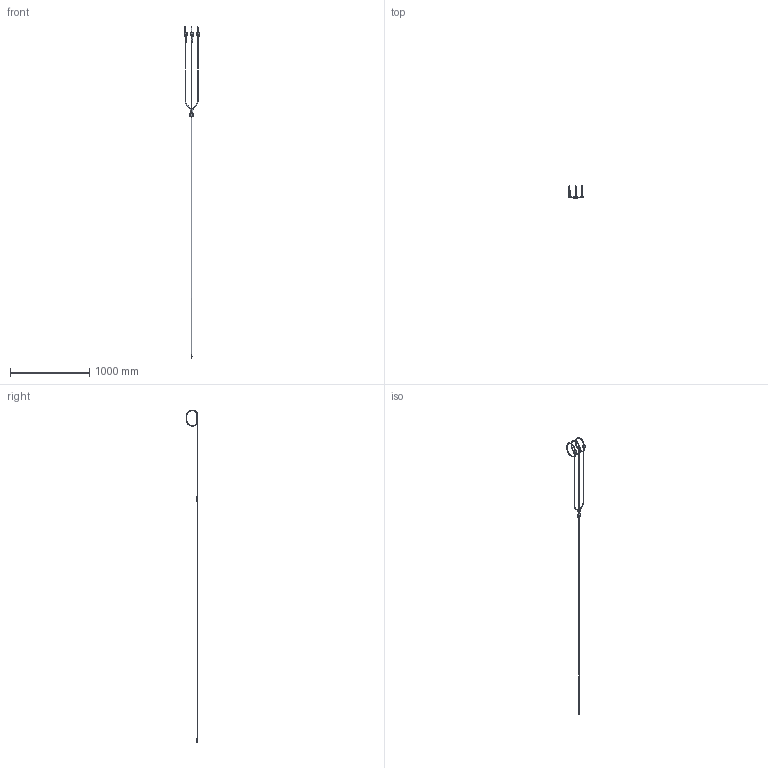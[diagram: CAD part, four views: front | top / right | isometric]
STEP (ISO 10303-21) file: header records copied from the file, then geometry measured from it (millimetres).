
FILE_DESCRIPTION(('Creo Elements/Direct Modeling STEP Export'),'2;1');
FILE_NAME('90.M7.99.100.0_20220421.stp','2022-04-21T14:11:26',(''),(''),'Creo Elements/Direct Modeling STEP processor for AP214 (Solid Model)','Creo Elements/Direct Modeling 20.1 10-Mar-2018 (C) Parametric Technology GmbH','');
FILE_SCHEMA(('AUTOMOTIVE_DESIGN { 1 0 10303 214 1 1 1 1 }'));
Products named in the file (2): BLACK_BOX_D125_SP100_90.M7.99.100.0
Assembly tree (1 placements, depth 2):
  BLACK_BOX_D125_SP100_90.M7.99.100.0
    BLACK_BOX_D125_SP100_90.M7.99.100.0
Bounding box: 192.44 x 151.56 x 4193.51 mm (x, y, z)
Volume: 305880.7 mm3; surface area: 169370.6 mm2
Topology: 1 solids, 2 shells, 3075 faces, 7802 edges, 4694 vertices
Faces by surface type: bspline 1186, cylinder 705, plane 686, torus 347, cone 102, extrusion 30, sphere 19
Entity records: 287800 total; most frequent: CARTESIAN_POINT 202289, ORIENTED_EDGE 15572, DIRECTION 8631, EDGE_CURVE 7776, VERTEX_POINT 4694, AXIS2_PLACEMENT_3D 3205, EDGE_LOOP 3142, PRESENTATION_STYLE_ASSIGNMENT 3100
